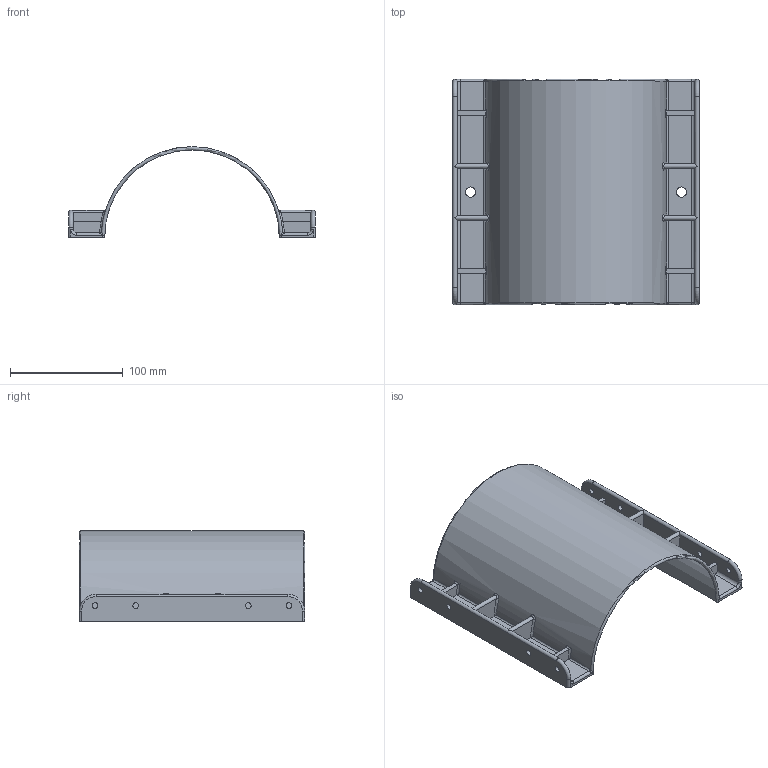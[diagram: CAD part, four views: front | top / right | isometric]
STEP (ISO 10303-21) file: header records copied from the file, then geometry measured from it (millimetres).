
FILE_DESCRIPTION(('STEP AP203'), '1');
FILE_NAME('íàêëàäêà âàð.2', '', ('UNSPECIFIED'), ('UNSPECIFIED'), 'C3D Converter', 'C3D Toolkit', '');
FILE_SCHEMA(('CONFIG_CONTROL_DESIGN'));
Length unit declared in the file: millimetre
Bounding box: 219 x 200 x 80.5 mm (x, y, z)
Volume: 237094.3 mm3; surface area: 144459.9 mm2
Topology: 1 solids, 1 shells, 138 faces, 388 edges, 248 vertices
Faces by surface type: cylinder 48, plane 44, torus 26, bspline 20
Full cylindrical faces by diameter (mm): 5 x8
Entity records: 7643 total; most frequent: CARTESIAN_POINT 4167, ORIENTED_EDGE 752, DIRECTION 674, EDGE_CURVE 376, AXIS2_PLACEMENT_3D 263, VERTEX_POINT 248, EDGE_LOOP 166, FACE_BOUND 150
